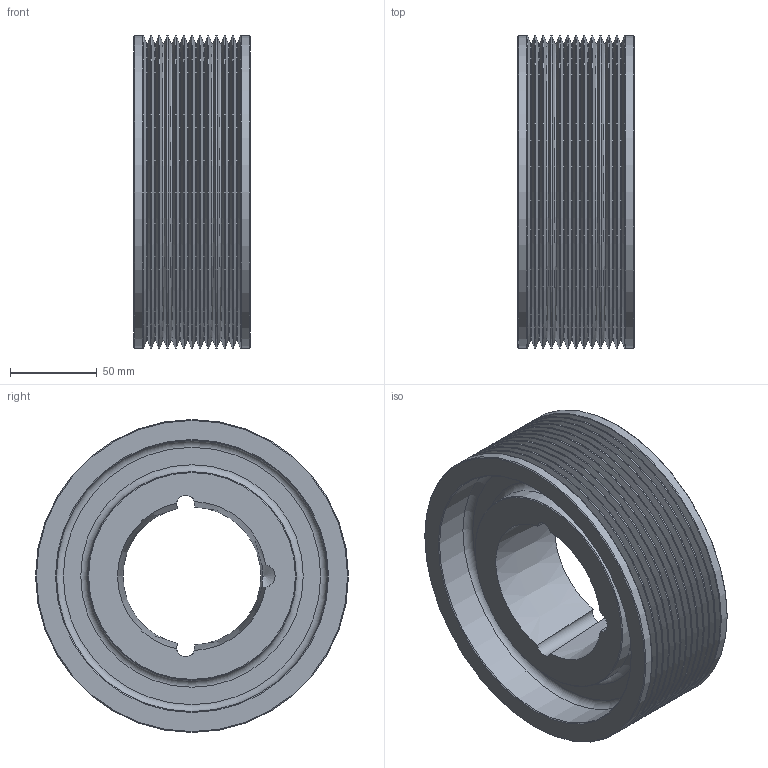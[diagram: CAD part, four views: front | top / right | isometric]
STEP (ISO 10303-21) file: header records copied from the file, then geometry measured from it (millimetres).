
FILE_DESCRIPTION(/* description */ (''),/* implementation_level */ '2;1');
FILE_NAME(/* name */ 'C:\Users\stagistaCAD\Desktop\48212250.stp',/* time_stamp */ '2018-06-14T11:40:30+02:00',/* author */ ('stagistacad'),/* organization */ (''),/* preprocessor_version */ 'ST-DEVELOPER v15.6',/* originating_system */ 'Autodesk Inventor 2015',/* authorisation */ '');
FILE_SCHEMA (('AUTOMOTIVE_DESIGN { 1 0 10303 214 3 1 1 }'));
Length unit declared in the file: millimetre
Products named in the file (1): 48212250
Bounding box: 67 x 180 x 180 mm (x, y, z)
Volume: 771351.2 mm3; surface area: 161783.4 mm2
Topology: 1 solids, 1 shells, 77 faces, 155 edges, 83 vertices
Faces by surface type: cone 33, torus 29, cylinder 9, plane 6
Full cylindrical faces by diameter (mm): 120 x2, 156 x2, 180 x2
Entity records: 1708 total; most frequent: CARTESIAN_POINT 319, DIRECTION 318, ORIENTED_EDGE 176, AXIS2_PLACEMENT_3D 159, EDGE_LOOP 148, EDGE_CURVE 88, VERTEX_POINT 82, CIRCLE 81
